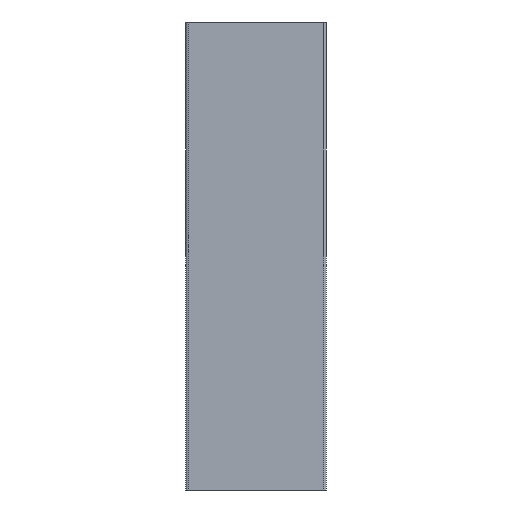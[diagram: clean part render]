
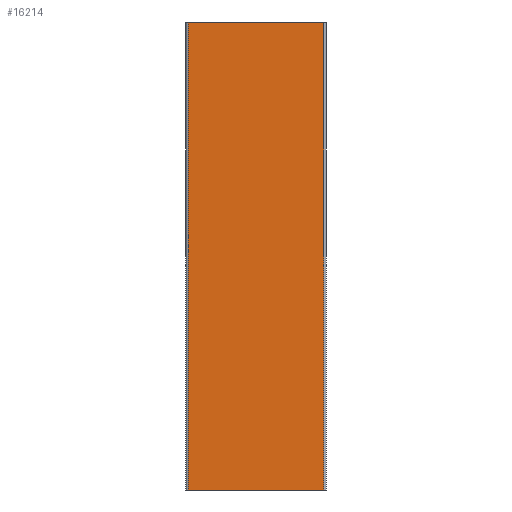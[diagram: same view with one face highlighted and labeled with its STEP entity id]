
A CAD part, front view. The second image highlights one B-rep face of the part: STEP entity #16214.
In plain terms, the highlighted planar face has unit normal (0, -1, 0).
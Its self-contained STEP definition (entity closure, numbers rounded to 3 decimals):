
#54 = EDGE_CURVE ( 'NONE', #20285, #18075, #1414, .T. ) ;
#400 = DIRECTION ( 'NONE',  ( 1., 0., 0. ) ) ;
#1414 = LINE ( 'NONE', #2369, #13873 ) ;
#1431 = CARTESIAN_POINT ( 'NONE',  ( 92.85, 73.702, 100. ) ) ;
#1767 = VECTOR ( 'NONE', #4054, 1000. ) ;
#1950 = EDGE_CURVE ( 'NONE', #19793, #20285, #3665, .T. ) ;
#2369 = CARTESIAN_POINT ( 'NONE',  ( 92.85, 73.702, 100. ) ) ;
#3186 = EDGE_CURVE ( 'NONE', #17561, #18075, #16895, .T. ) ;
#3263 = CARTESIAN_POINT ( 'NONE',  ( 63.85, 73.702, 0. ) ) ;
#3665 = LINE ( 'NONE', #6845, #18908 ) ;
#4054 = DIRECTION ( 'NONE',  ( 0., 0., -1. ) ) ;
#5222 = DIRECTION ( 'NONE',  ( 0., 0., -1. ) ) ;
#6087 = LINE ( 'NONE', #13789, #1767 ) ;
#6845 = CARTESIAN_POINT ( 'NONE',  ( 92.85, 73.702, 100. ) ) ;
#7432 = DIRECTION ( 'NONE',  ( 1., 0., 0. ) ) ;
#7480 = EDGE_CURVE ( 'NONE', #19793, #17561, #6087, .T. ) ;
#7845 = CARTESIAN_POINT ( 'NONE',  ( 92.85, 73.702, 0. ) ) ;
#8254 = VECTOR ( 'NONE', #7432, 1000. ) ;
#8584 = FACE_OUTER_BOUND ( 'NONE', #16749, .T. ) ;
#9672 = CARTESIAN_POINT ( 'NONE',  ( 63.85, 73.702, 100. ) ) ;
#10374 = CARTESIAN_POINT ( 'NONE',  ( 92.85, 73.702, 100. ) ) ;
#10453 = DIRECTION ( 'NONE',  ( 0., 0., 1. ) ) ;
#13737 = ORIENTED_EDGE ( 'NONE', *, *, #54, .F. ) ;
#13789 = CARTESIAN_POINT ( 'NONE',  ( 63.85, 73.702, 100. ) ) ;
#13793 = ORIENTED_EDGE ( 'NONE', *, *, #7480, .T. ) ;
#13873 = VECTOR ( 'NONE', #5222, 1000. ) ;
#16214 = ADVANCED_FACE ( 'NONE', ( #8584 ), #18537, .F. ) ;
#16702 = AXIS2_PLACEMENT_3D ( 'NONE', #10374, #20159, #10453 ) ;
#16749 = EDGE_LOOP ( 'NONE', ( #19348, #13737, #18234, #13793 ) ) ;
#16895 = LINE ( 'NONE', #17084, #8254 ) ;
#17084 = CARTESIAN_POINT ( 'NONE',  ( 92.85, 73.702, 0. ) ) ;
#17561 = VERTEX_POINT ( 'NONE', #3263 ) ;
#18075 = VERTEX_POINT ( 'NONE', #7845 ) ;
#18234 = ORIENTED_EDGE ( 'NONE', *, *, #1950, .F. ) ;
#18537 = PLANE ( 'NONE',  #16702 ) ;
#18908 = VECTOR ( 'NONE', #400, 1000. ) ;
#19348 = ORIENTED_EDGE ( 'NONE', *, *, #3186, .T. ) ;
#19793 = VERTEX_POINT ( 'NONE', #9672 ) ;
#20159 = DIRECTION ( 'NONE',  ( 0., 1., 0. ) ) ;
#20285 = VERTEX_POINT ( 'NONE', #1431 ) ;
